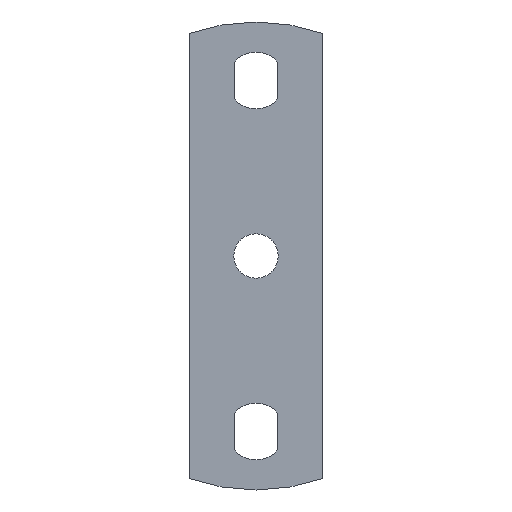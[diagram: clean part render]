
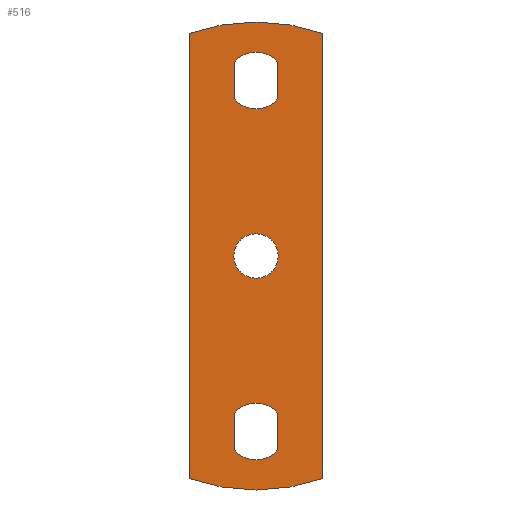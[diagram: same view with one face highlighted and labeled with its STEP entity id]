
A CAD part, front view. The second image highlights one B-rep face of the part: STEP entity #516.
In plain terms, the highlighted planar face has unit normal (0, -1, 0).
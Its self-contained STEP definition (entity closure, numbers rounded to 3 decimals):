
#31=FACE_BOUND('',#118,.T.);
#32=FACE_BOUND('',#119,.T.);
#33=FACE_BOUND('',#120,.T.);
#48=PLANE('',#587);
#84=FACE_OUTER_BOUND('',#117,.T.);
#117=EDGE_LOOP('',(#468,#469,#470,#471));
#118=EDGE_LOOP('',(#472));
#119=EDGE_LOOP('',(#473,#474,#475,#476));
#120=EDGE_LOOP('',(#477,#478,#479,#480));
#137=LINE('',#839,#175);
#141=LINE('',#850,#179);
#145=LINE('',#863,#183);
#149=LINE('',#874,#187);
#153=LINE('',#883,#191);
#157=LINE('',#895,#195);
#175=VECTOR('',#664,10.);
#179=VECTOR('',#676,10.);
#183=VECTOR('',#688,10.);
#187=VECTOR('',#700,10.);
#191=VECTOR('',#706,10.);
#195=VECTOR('',#718,10.);
#200=CIRCLE('',#542,3.324);
#207=CIRCLE('',#563,4.25);
#209=CIRCLE('',#567,4.25);
#211=CIRCLE('',#571,4.25);
#213=CIRCLE('',#575,4.25);
#216=CIRCLE('',#581,30.);
#218=CIRCLE('',#585,30.);
#222=VERTEX_POINT('',#740);
#241=VERTEX_POINT('',#829);
#242=VERTEX_POINT('',#830);
#245=VERTEX_POINT('',#838);
#247=VERTEX_POINT('',#844);
#249=VERTEX_POINT('',#853);
#250=VERTEX_POINT('',#854);
#253=VERTEX_POINT('',#862);
#255=VERTEX_POINT('',#868);
#259=VERTEX_POINT('',#880);
#260=VERTEX_POINT('',#882);
#262=VERTEX_POINT('',#888);
#264=VERTEX_POINT('',#894);
#270=EDGE_CURVE('',#222,#222,#200,.T.);
#301=EDGE_CURVE('',#241,#242,#207,.T.);
#305=EDGE_CURVE('',#242,#245,#137,.T.);
#308=EDGE_CURVE('',#245,#247,#209,.T.);
#311=EDGE_CURVE('',#247,#241,#141,.T.);
#313=EDGE_CURVE('',#249,#250,#211,.T.);
#317=EDGE_CURVE('',#250,#253,#145,.T.);
#320=EDGE_CURVE('',#253,#255,#213,.T.);
#323=EDGE_CURVE('',#255,#249,#149,.T.);
#327=EDGE_CURVE('',#260,#259,#153,.T.);
#330=EDGE_CURVE('',#262,#260,#216,.T.);
#333=EDGE_CURVE('',#264,#262,#157,.T.);
#336=EDGE_CURVE('',#259,#264,#218,.T.);
#468=ORIENTED_EDGE('',*,*,#336,.T.);
#469=ORIENTED_EDGE('',*,*,#333,.T.);
#470=ORIENTED_EDGE('',*,*,#330,.T.);
#471=ORIENTED_EDGE('',*,*,#327,.T.);
#472=ORIENTED_EDGE('',*,*,#270,.T.);
#473=ORIENTED_EDGE('',*,*,#308,.T.);
#474=ORIENTED_EDGE('',*,*,#311,.T.);
#475=ORIENTED_EDGE('',*,*,#301,.T.);
#476=ORIENTED_EDGE('',*,*,#305,.T.);
#477=ORIENTED_EDGE('',*,*,#320,.T.);
#478=ORIENTED_EDGE('',*,*,#323,.T.);
#479=ORIENTED_EDGE('',*,*,#313,.T.);
#480=ORIENTED_EDGE('',*,*,#317,.T.);
#516=ADVANCED_FACE('',(#84,#31,#32,#33),#48,.F.);
#542=AXIS2_PLACEMENT_3D('',#742,#602,#603);
#563=AXIS2_PLACEMENT_3D('',#831,#656,#657);
#567=AXIS2_PLACEMENT_3D('',#845,#669,#670);
#571=AXIS2_PLACEMENT_3D('',#855,#680,#681);
#575=AXIS2_PLACEMENT_3D('',#869,#693,#694);
#581=AXIS2_PLACEMENT_3D('',#889,#712,#713);
#585=AXIS2_PLACEMENT_3D('',#899,#724,#725);
#587=AXIS2_PLACEMENT_3D('',#901,#728,#729);
#602=DIRECTION('center_axis',(0.,1.,0.));
#603=DIRECTION('ref_axis',(1.,0.,0.));
#656=DIRECTION('center_axis',(0.,1.,0.));
#657=DIRECTION('ref_axis',(0.765,0.,-0.644));
#664=DIRECTION('',(0.,0.,1.));
#669=DIRECTION('center_axis',(0.,1.,0.));
#670=DIRECTION('ref_axis',(-0.765,0.,0.644));
#676=DIRECTION('',(0.,0.,-1.));
#680=DIRECTION('center_axis',(0.,1.,0.));
#681=DIRECTION('ref_axis',(-0.765,0.,0.644));
#688=DIRECTION('',(0.,0.,-1.));
#693=DIRECTION('center_axis',(0.,1.,0.));
#694=DIRECTION('ref_axis',(0.765,0.,-0.644));
#700=DIRECTION('',(0.,0.,1.));
#706=DIRECTION('',(0.,0.,-1.));
#712=DIRECTION('center_axis',(0.,-1.,0.));
#713=DIRECTION('ref_axis',(-0.333,0.,0.943));
#718=DIRECTION('',(0.,0.,1.));
#724=DIRECTION('center_axis',(0.,-1.,0.));
#725=DIRECTION('ref_axis',(0.333,0.,-0.943));
#728=DIRECTION('center_axis',(0.,1.,0.));
#729=DIRECTION('ref_axis',(0.,0.,1.));
#740=CARTESIAN_POINT('',(-3.324,-2.,0.));
#742=CARTESIAN_POINT('Origin',(0.,-2.,0.));
#829=CARTESIAN_POINT('',(3.25,-2.,-28.989));
#830=CARTESIAN_POINT('',(-3.25,-2.,-28.989));
#831=CARTESIAN_POINT('Origin',(0.,-2.,-26.25));
#838=CARTESIAN_POINT('',(-3.25,-2.,-23.511));
#839=CARTESIAN_POINT('',(-3.25,-2.,-11.756));
#844=CARTESIAN_POINT('',(3.25,-2.,-23.511));
#845=CARTESIAN_POINT('Origin',(0.,-2.,-26.25));
#850=CARTESIAN_POINT('',(3.25,-2.,-14.494));
#853=CARTESIAN_POINT('',(-3.25,-2.,28.989));
#854=CARTESIAN_POINT('',(3.25,-2.,28.989));
#855=CARTESIAN_POINT('Origin',(0.,-2.,26.25));
#862=CARTESIAN_POINT('',(3.25,-2.,23.511));
#863=CARTESIAN_POINT('',(3.25,-2.,11.756));
#868=CARTESIAN_POINT('',(-3.25,-2.,23.511));
#869=CARTESIAN_POINT('Origin',(0.,-2.,26.25));
#874=CARTESIAN_POINT('',(-3.25,-2.,14.494));
#880=CARTESIAN_POINT('',(-10.,-2.,-33.284));
#882=CARTESIAN_POINT('',(-10.,-2.,33.284));
#883=CARTESIAN_POINT('',(-10.,-2.,-33.284));
#888=CARTESIAN_POINT('',(10.,-2.,33.284));
#889=CARTESIAN_POINT('Origin',(0.,-2.,5.));
#894=CARTESIAN_POINT('',(10.,-2.,-33.284));
#895=CARTESIAN_POINT('',(10.,-2.,33.284));
#899=CARTESIAN_POINT('Origin',(0.,-2.,-5.));
#901=CARTESIAN_POINT('Origin',(0.,-2.,0.));
